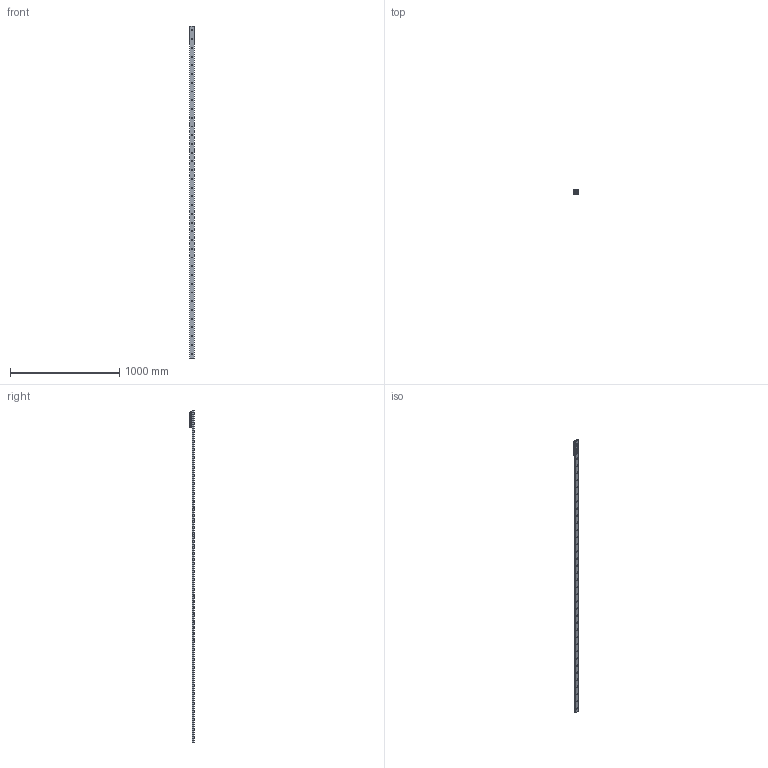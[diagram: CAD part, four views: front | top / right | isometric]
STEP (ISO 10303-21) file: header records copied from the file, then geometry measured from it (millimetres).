
FILE_DESCRIPTION( ( 'STEP AP214' ), '1' );
FILE_NAME( 'p:/temp/worker_9/temp/exporttempdir_1912_621_MLJ4U/format_2/TGV-03040_1_RV43G-3.stp', '2021-05-14T19:22:10', ( 'License CC BY-ND 4.0' ), ( 'CADENAS' ), ' ', 'PARTsolutions', ' ' );
FILE_SCHEMA( ( 'AUTOMOTIVE_DESIGN { 1 0 10303 214 1 1 1 1 }' ) );
Length unit declared in the file: millimetre
Products named in the file (6): TGV-03040/1/RV43G-3; _TGV43-3040-(3-1); _RVG43-3-slider; _RGNV43R; _RGAV43R; _WR43G-01
Assembly tree (7 placements, depth 2):
  TGV-03040/1/RV43G-3
    _TGV43-3040-(3-1)
    _RVG43-3-slider
    _RGNV43R  x2
    _RGAV43R
    _WR43G-01  x2
Bounding box: 43 x 37 x 3040 mm (x, y, z)
Volume: 1233738.7 mm3; surface area: 497160.7 mm2
Topology: 7 solids, 7 shells, 1117 faces, 2914 edges, 1893 vertices
Faces by surface type: plane 663, cylinder 334, cone 77, bspline 34, torus 9
Full cylindrical faces by diameter (mm): 1.76 x4, 3 x8, 6 x4, 6.647 x4, 6.8 x3, 8 x3, 8.5 x38, 11 x11, 15 x6, 15.5 x1, 18.98 x2, 19 x1, 31.4 x6
Entity records: 27153 total; most frequent: CARTESIAN_POINT 4230, DIRECTION 3647, ORIENTED_EDGE 3292, EDGE_CURVE 1646, AXIS2_PLACEMENT_3D 1420, VERTEX_POINT 1165, EDGE_LOOP 1025, LINE 807
